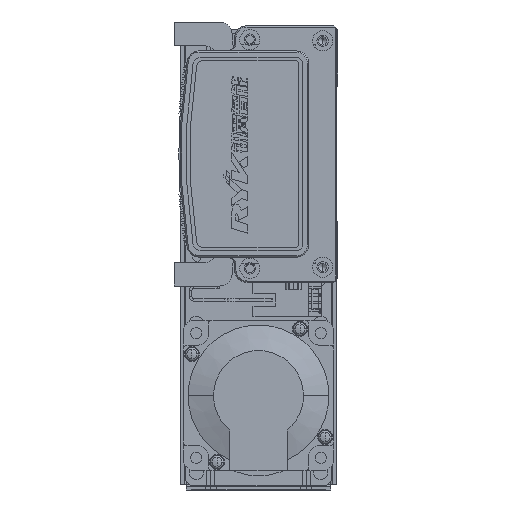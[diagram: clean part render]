
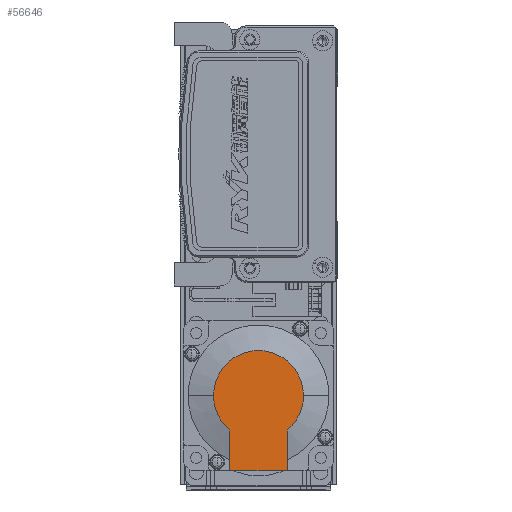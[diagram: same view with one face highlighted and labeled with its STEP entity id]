
A CAD part, left-side view. The second image highlights one B-rep face of the part: STEP entity #56646.
In plain terms, the highlighted planar face has unit normal (-1, 0, 0).
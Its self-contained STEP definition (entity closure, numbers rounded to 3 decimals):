
#7838 = CARTESIAN_POINT ( 'NONE',  ( -99., 13.735, 11.45 ) ) ;
#7876 = CARTESIAN_POINT ( 'NONE',  ( -99., 0., -17.881 ) ) ;
#7953 = CARTESIAN_POINT ( 'NONE',  ( -99., 0., 17.881 ) ) ;
#9003 = AXIS2_PLACEMENT_3D ( 'NONE', #47545, #47554, #47560 ) ;
#9020 = AXIS2_PLACEMENT_3D ( 'NONE', #47618, #47626, #47652 ) ;
#17840 = EDGE_CURVE ( 'NONE', #82031, #48550, #19686, .T. ) ;
#17907 = EDGE_CURVE ( 'NONE', #82050, #82031, #19919, .T. ) ;
#17937 = EDGE_CURVE ( 'NONE', #82050, #82048, #20121, .T. ) ;
#17999 = EDGE_CURVE ( 'NONE', #82048, #48569, #20168, .T. ) ;
#19686 = CIRCLE ( 'NONE', #74073, 17.881 ) ;
#19919 = LINE ( 'NONE', #23807, #20009 ) ;
#20009 = VECTOR ( 'NONE', #23815, 1000. ) ;
#20108 = VECTOR ( 'NONE', #23854, 1000. ) ;
#20121 = LINE ( 'NONE', #23860, #20108 ) ;
#20168 = LINE ( 'NONE', #24006, #20200 ) ;
#20200 = VECTOR ( 'NONE', #24029, 1000. ) ;
#23655 = DIRECTION ( 'NONE',  ( 0., 0., -1. ) ) ;
#23667 = DIRECTION ( 'NONE',  ( -1., 0., 0. ) ) ;
#23668 = CARTESIAN_POINT ( 'NONE',  ( -99., 0., 0. ) ) ;
#23807 = CARTESIAN_POINT ( 'NONE',  ( -99., -8.941, -11.45 ) ) ;
#23815 = DIRECTION ( 'NONE',  ( 0., -1., 0. ) ) ;
#23854 = DIRECTION ( 'NONE',  ( 0., 0., 1. ) ) ;
#23860 = CARTESIAN_POINT ( 'NONE',  ( -99., 30., 25. ) ) ;
#24006 = CARTESIAN_POINT ( 'NONE',  ( -99., 0., 11.45 ) ) ;
#24029 = DIRECTION ( 'NONE',  ( 0., -1., 0. ) ) ;
#42958 = CARTESIAN_POINT ( 'NONE',  ( -99., 13.735, -11.45 ) ) ;
#42991 = CARTESIAN_POINT ( 'NONE',  ( -99., 30., 11.45 ) ) ;
#43021 = CARTESIAN_POINT ( 'NONE',  ( -99., 30., -11.45 ) ) ;
#46489 = CIRCLE ( 'NONE', #9003, 17.881 ) ;
#46574 = CIRCLE ( 'NONE', #9020, 17.881 ) ;
#47545 = CARTESIAN_POINT ( 'NONE',  ( -99., 0., 0. ) ) ;
#47554 = DIRECTION ( 'NONE',  ( -1., 0., 0. ) ) ;
#47560 = DIRECTION ( 'NONE',  ( 0., 0., -1. ) ) ;
#47618 = CARTESIAN_POINT ( 'NONE',  ( -99., 0., 0. ) ) ;
#47626 = DIRECTION ( 'NONE',  ( -1., 0., 0. ) ) ;
#47652 = DIRECTION ( 'NONE',  ( 0., 0., -1. ) ) ;
#48550 = VERTEX_POINT ( 'NONE', #7876 ) ;
#48569 = VERTEX_POINT ( 'NONE', #7838 ) ;
#48614 = VERTEX_POINT ( 'NONE', #7953 ) ;
#54627 = EDGE_CURVE ( 'NONE', #48550, #48614, #46489, .T. ) ;
#54668 = EDGE_CURVE ( 'NONE', #48614, #48569, #46574, .T. ) ;
#56646 = ADVANCED_FACE ( 'NONE', ( #63870 ), #70253, .T. ) ;
#63870 = FACE_OUTER_BOUND ( 'NONE', #65535, .T. ) ;
#65535 = EDGE_LOOP ( 'NONE', ( #80373, #80338, #80351, #80325, #80348, #80444 ) ) ;
#70253 = PLANE ( 'NONE',  #72453 ) ;
#70669 = CARTESIAN_POINT ( 'NONE',  ( -99., -8.941, 0. ) ) ;
#70760 = DIRECTION ( 'NONE',  ( -1., 0., 0. ) ) ;
#70802 = DIRECTION ( 'NONE',  ( 0., 0., 1. ) ) ;
#72453 = AXIS2_PLACEMENT_3D ( 'NONE', #70669, #70760, #70802 ) ;
#74073 = AXIS2_PLACEMENT_3D ( 'NONE', #23668, #23667, #23655 ) ;
#80325 = ORIENTED_EDGE ( 'NONE', *, *, #54668, .T. ) ;
#80338 = ORIENTED_EDGE ( 'NONE', *, *, #17840, .T. ) ;
#80348 = ORIENTED_EDGE ( 'NONE', *, *, #17999, .F. ) ;
#80351 = ORIENTED_EDGE ( 'NONE', *, *, #54627, .T. ) ;
#80373 = ORIENTED_EDGE ( 'NONE', *, *, #17907, .T. ) ;
#80444 = ORIENTED_EDGE ( 'NONE', *, *, #17937, .F. ) ;
#82031 = VERTEX_POINT ( 'NONE', #42958 ) ;
#82048 = VERTEX_POINT ( 'NONE', #42991 ) ;
#82050 = VERTEX_POINT ( 'NONE', #43021 ) ;
